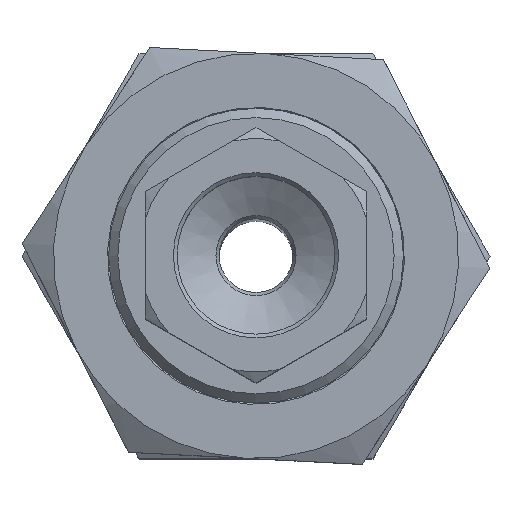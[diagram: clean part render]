
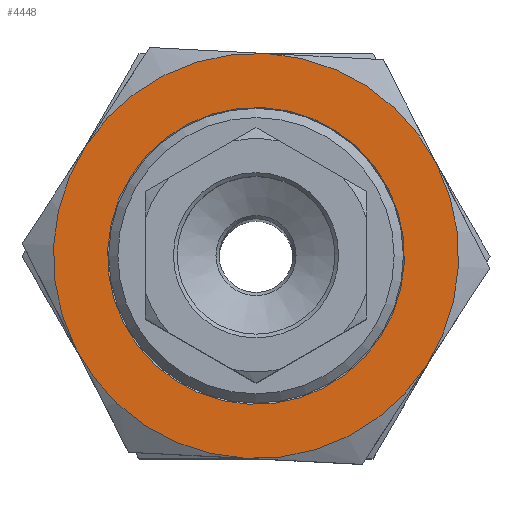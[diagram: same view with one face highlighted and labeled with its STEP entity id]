
A CAD part, top view. The second image highlights one B-rep face of the part: STEP entity #4448.
In plain terms, the highlighted planar face has unit normal (0, 0, 1).
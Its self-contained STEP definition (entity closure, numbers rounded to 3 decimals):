
#3978=CARTESIAN_POINT('',(9.526,-5.5,5.0));
#3979=VERTEX_POINT('',#3978);
#4032=CARTESIAN_POINT('',(9.526,5.5,5.0));
#4033=VERTEX_POINT('',#4032);
#4079=CARTESIAN_POINT('',(0.0,11.,5.0));
#4080=VERTEX_POINT('',#4079);
#4117=CARTESIAN_POINT('',(-9.526,5.5,5.0));
#4118=VERTEX_POINT('',#4117);
#4132=CARTESIAN_POINT('',(0.0,0.0,5.0));
#4133=DIRECTION('',(0.0,0.0,1.0));
#4134=DIRECTION('',(0.0,1.0,0.0));
#4135=AXIS2_PLACEMENT_3D('',#4132,#4133,#4134);
#4136=CIRCLE('',#4135,11.);
#4137=EDGE_CURVE('',#4080,#4118,#4136,.T.);
#4149=CARTESIAN_POINT('',(0.0,0.0,5.0));
#4150=DIRECTION('',(0.0,0.0,1.0));
#4151=DIRECTION('',(0.0,1.0,0.0));
#4152=AXIS2_PLACEMENT_3D('',#4149,#4150,#4151);
#4153=CIRCLE('',#4152,11.);
#4154=EDGE_CURVE('',#4033,#4080,#4153,.T.);
#4166=CARTESIAN_POINT('',(0.0,0.0,5.0));
#4167=DIRECTION('',(0.0,0.0,1.0));
#4168=DIRECTION('',(0.0,1.0,0.0));
#4169=AXIS2_PLACEMENT_3D('',#4166,#4167,#4168);
#4170=CIRCLE('',#4169,11.);
#4171=EDGE_CURVE('',#3979,#4033,#4170,.T.);
#4181=CARTESIAN_POINT('',(0.,-11.,5.0));
#4182=VERTEX_POINT('',#4181);
#4197=CARTESIAN_POINT('',(0.0,0.0,5.0));
#4198=DIRECTION('',(0.0,0.0,1.0));
#4199=DIRECTION('',(0.0,1.0,0.0));
#4200=AXIS2_PLACEMENT_3D('',#4197,#4198,#4199);
#4201=CIRCLE('',#4200,11.);
#4202=EDGE_CURVE('',#4182,#3979,#4201,.T.);
#4227=CARTESIAN_POINT('',(-9.526,-5.5,5.0));
#4228=VERTEX_POINT('',#4227);
#4229=CARTESIAN_POINT('',(0.0,0.0,5.0));
#4230=DIRECTION('',(0.0,0.0,1.0));
#4231=DIRECTION('',(0.0,1.0,0.0));
#4232=AXIS2_PLACEMENT_3D('',#4229,#4230,#4231);
#4233=CIRCLE('',#4232,11.);
#4234=EDGE_CURVE('',#4228,#4182,#4233,.T.);
#4272=CARTESIAN_POINT('',(0.0,0.0,5.0));
#4273=DIRECTION('',(0.0,0.0,1.0));
#4274=DIRECTION('',(0.0,1.0,0.0));
#4275=AXIS2_PLACEMENT_3D('',#4272,#4273,#4274);
#4276=CIRCLE('',#4275,11.);
#4277=EDGE_CURVE('',#4118,#4228,#4276,.T.);
#4420=CARTESIAN_POINT('',(8.059,0.,5.0));
#4421=VERTEX_POINT('',#4420);
#4422=CARTESIAN_POINT('',(0.,0.,5.0));
#4423=DIRECTION('',(0.0,0.0,1.0));
#4424=DIRECTION('',(-1.0,0.0,0.0));
#4425=AXIS2_PLACEMENT_3D('',#4422,#4423,#4424);
#4426=CIRCLE('',#4425,8.058);
#4427=EDGE_CURVE('',#4421,#4421,#4426,.T.);
#4432=CARTESIAN_POINT('',(0.,0.,5.0));
#4433=DIRECTION('',(0.0,0.0,1.0));
#4434=DIRECTION('',(1.0,0.0,0.0));
#4435=AXIS2_PLACEMENT_3D('',#4432,#4433,#4434);
#4436=PLANE('',#4435);
#4437=ORIENTED_EDGE('',*,*,#4277,.T.);
#4438=ORIENTED_EDGE('',*,*,#4234,.T.);
#4439=ORIENTED_EDGE('',*,*,#4202,.T.);
#4440=ORIENTED_EDGE('',*,*,#4171,.T.);
#4441=ORIENTED_EDGE('',*,*,#4154,.T.);
#4442=ORIENTED_EDGE('',*,*,#4137,.T.);
#4443=EDGE_LOOP('',(#4437,#4438,#4439,#4440,#4441,#4442));
#4444=FACE_OUTER_BOUND('',#4443,.T.);
#4445=ORIENTED_EDGE('',*,*,#4427,.F.);
#4446=EDGE_LOOP('',(#4445));
#4447=FACE_BOUND('',#4446,.T.);
#4448=ADVANCED_FACE('',(#4444,#4447),#4436,.T.);
